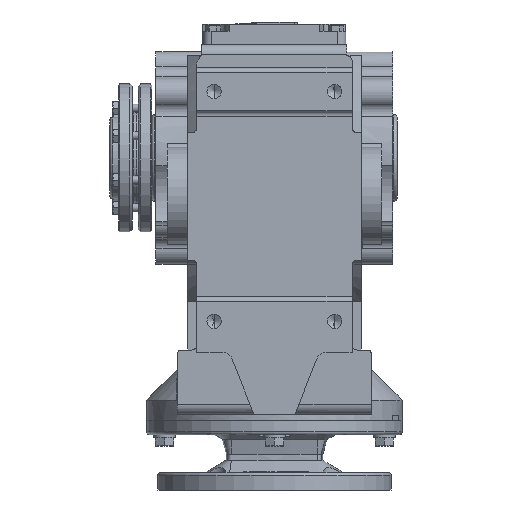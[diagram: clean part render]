
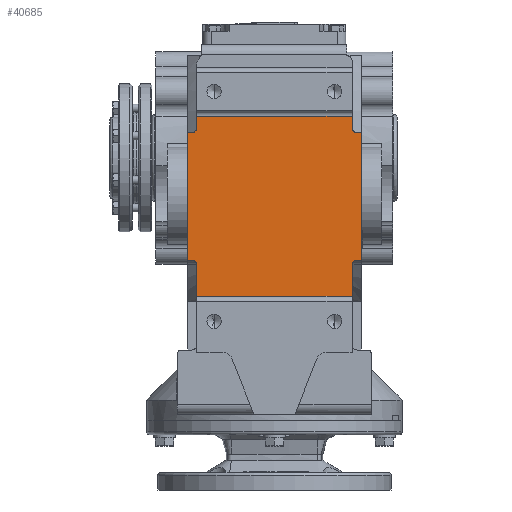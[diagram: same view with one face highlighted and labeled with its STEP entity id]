
A CAD part, front view. The second image highlights one B-rep face of the part: STEP entity #40685.
In plain terms, the highlighted planar face has unit normal (0, -1, 0).
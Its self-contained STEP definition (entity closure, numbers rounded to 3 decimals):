
#1103 = VERTEX_POINT ( 'NONE', #47355 ) ;
#1232 = VERTEX_POINT ( 'NONE', #47409 ) ;
#4917 = EDGE_CURVE ( 'NONE', #5127, #1232, #37619, .T. ) ;
#4921 = EDGE_CURVE ( 'NONE', #5411, #5133, #37627, .T. ) ;
#4922 = EDGE_CURVE ( 'NONE', #5411, #5130, #37629, .T. ) ;
#5127 = VERTEX_POINT ( 'NONE', #41481 ) ;
#5128 = VERTEX_POINT ( 'NONE', #41482 ) ;
#5129 = VERTEX_POINT ( 'NONE', #41483 ) ;
#5130 = VERTEX_POINT ( 'NONE', #41484 ) ;
#5133 = VERTEX_POINT ( 'NONE', #41487 ) ;
#5169 = VERTEX_POINT ( 'NONE', #41523 ) ;
#5172 = VERTEX_POINT ( 'NONE', #41526 ) ;
#5177 = VERTEX_POINT ( 'NONE', #41531 ) ;
#5180 = VERTEX_POINT ( 'NONE', #41534 ) ;
#5411 = VERTEX_POINT ( 'NONE', #41765 ) ;
#5496 = VERTEX_POINT ( 'NONE', #41850 ) ;
#5497 = VERTEX_POINT ( 'NONE', #41851 ) ;
#5568 = VERTEX_POINT ( 'NONE', #41922 ) ;
#5570 = VERTEX_POINT ( 'NONE', #41924 ) ;
#6868 = ORIENTED_EDGE ( 'NONE', *, *, #12306, .T. ) ;
#6870 = ORIENTED_EDGE ( 'NONE', *, *, #4917, .F. ) ;
#6872 = ORIENTED_EDGE ( 'NONE', *, *, #4922, .T. ) ;
#6874 = ORIENTED_EDGE ( 'NONE', *, *, #4921, .F. ) ;
#6876 = ORIENTED_EDGE ( 'NONE', *, *, #10694, .F. ) ;
#6878 = ORIENTED_EDGE ( 'NONE', *, *, #10252, .T. ) ;
#6880 = ORIENTED_EDGE ( 'NONE', *, *, #10241, .F. ) ;
#6882 = ORIENTED_EDGE ( 'NONE', *, *, #58040, .T. ) ;
#6884 = ORIENTED_EDGE ( 'NONE', *, *, #9985, .F. ) ;
#6886 = ORIENTED_EDGE ( 'NONE', *, *, #10565, .T. ) ;
#6888 = ORIENTED_EDGE ( 'NONE', *, *, #10239, .F. ) ;
#6890 = ORIENTED_EDGE ( 'NONE', *, *, #10793, .T. ) ;
#6892 = ORIENTED_EDGE ( 'NONE', *, *, #10722, .F. ) ;
#6894 = ORIENTED_EDGE ( 'NONE', *, *, #10398, .F. ) ;
#6896 = ORIENTED_EDGE ( 'NONE', *, *, #58035, .T. ) ;
#6898 = ORIENTED_EDGE ( 'NONE', *, *, #10308, .F. ) ;
#7891 = EDGE_LOOP ( 'NONE', ( #6870, #6868, #6874, #6872, #6876, #6888, #6894, #6878, #6880, #6890, #6892, #6882, #6886, #6884, #6898, #6896 ) ) ;
#9301 = CARTESIAN_POINT ( 'NONE',  ( 81., -206., 29.651 ) ) ;
#9302 = DIRECTION ( 'NONE',  ( 0., 1., 0. ) ) ;
#9303 = DIRECTION ( 'NONE',  ( 0., 0., -1. ) ) ;
#9320 = CARTESIAN_POINT ( 'NONE',  ( 81., -206., -105. ) ) ;
#9321 = DIRECTION ( 'NONE',  ( 0., 1., 0. ) ) ;
#9322 = DIRECTION ( 'NONE',  ( 0., 0., -1. ) ) ;
#9985 = EDGE_CURVE ( 'NONE', #5496, #5497, #38332, .T. ) ;
#10239 = EDGE_CURVE ( 'NONE', #5570, #5568, #24556, .T. ) ;
#10241 = EDGE_CURVE ( 'NONE', #5169, #5180, #24563, .T. ) ;
#10252 = EDGE_CURVE ( 'NONE', #5177, #5180, #24578, .T. ) ;
#10308 = EDGE_CURVE ( 'NONE', #5129, #5496, #24647, .T. ) ;
#10398 = EDGE_CURVE ( 'NONE', #5177, #5570, #24773, .T. ) ;
#10565 = EDGE_CURVE ( 'NONE', #5128, #5497, #24975, .T. ) ;
#10694 = EDGE_CURVE ( 'NONE', #5568, #5130, #25218, .T. ) ;
#10722 = EDGE_CURVE ( 'NONE', #1103, #5172, #25285, .T. ) ;
#10793 = EDGE_CURVE ( 'NONE', #5169, #5172, #25467, .T. ) ;
#12306 = EDGE_CURVE ( 'NONE', #5127, #5133, #59460, .T. ) ;
#17990 = CIRCLE ( 'NONE', #20165, 5. ) ;
#17996 = CIRCLE ( 'NONE', #20168, 5. ) ;
#18379 = AXIS2_PLACEMENT_3D ( 'NONE', #19350, #19351, #19352 ) ;
#18521 = AXIS2_PLACEMENT_3D ( 'NONE', #23891, #23892, #23893 ) ;
#19319 = CARTESIAN_POINT ( 'NONE',  ( 76., -206., 46. ) ) ;
#19327 = DIRECTION ( 'NONE',  ( 0., 0., -1. ) ) ;
#19334 = DIRECTION ( 'NONE',  ( 0., 0., 1. ) ) ;
#19337 = CARTESIAN_POINT ( 'NONE',  ( -76., -206., 46. ) ) ;
#19350 = CARTESIAN_POINT ( 'NONE',  ( -81., -206., 29.651 ) ) ;
#19351 = DIRECTION ( 'NONE',  ( 0., 1., 0. ) ) ;
#19352 = DIRECTION ( 'NONE',  ( 0., 0., -1. ) ) ;
#20165 = AXIS2_PLACEMENT_3D ( 'NONE', #9301, #9302, #9303 ) ;
#20168 = AXIS2_PLACEMENT_3D ( 'NONE', #9320, #9321, #9322 ) ;
#23816 = DIRECTION ( 'NONE',  ( 0., 0., 1. ) ) ;
#23832 = CARTESIAN_POINT ( 'NONE',  ( -85., -206., 7. ) ) ;
#23838 = CARTESIAN_POINT ( 'NONE',  ( -76., -206., -103. ) ) ;
#23839 = DIRECTION ( 'NONE',  ( 0., 0., 1. ) ) ;
#23891 = CARTESIAN_POINT ( 'NONE',  ( -81., -206., -105. ) ) ;
#23892 = DIRECTION ( 'NONE',  ( 0., 1., 0. ) ) ;
#23893 = DIRECTION ( 'NONE',  ( 0., 0., -1. ) ) ;
#24103 = DIRECTION ( 'NONE',  ( 1., 0., 0. ) ) ;
#24108 = CARTESIAN_POINT ( 'NONE',  ( 85., -206., 24.651 ) ) ;
#24556 = LINE ( 'NONE', #23832, #24562 ) ;
#24562 = VECTOR ( 'NONE', #23816, 1000. ) ;
#24563 = LINE ( 'NONE', #23838, #24566 ) ;
#24566 = VECTOR ( 'NONE', #23839, 1000. ) ;
#24578 = CIRCLE ( 'NONE', #18521, 5. ) ;
#24647 = LINE ( 'NONE', #24108, #24653 ) ;
#24653 = VECTOR ( 'NONE', #24103, 1000. ) ;
#24773 = LINE ( 'NONE', #49934, #24776 ) ;
#24776 = VECTOR ( 'NONE', #49937, 1000. ) ;
#24975 = LINE ( 'NONE', #37823, #24987 ) ;
#24987 = VECTOR ( 'NONE', #37884, 1000. ) ;
#25218 = LINE ( 'NONE', #38631, #25221 ) ;
#25221 = VECTOR ( 'NONE', #38633, 1000. ) ;
#25285 = LINE ( 'NONE', #38936, #25287 ) ;
#25287 = VECTOR ( 'NONE', #38940, 1000. ) ;
#25467 = LINE ( 'NONE', #39456, #25472 ) ;
#25472 = VECTOR ( 'NONE', #39458, 1000. ) ;
#27286 = CARTESIAN_POINT ( 'NONE',  ( -112., -206., 7. ) ) ;
#27289 = PLANE ( 'NONE',  #45484 ) ;
#27293 = DIRECTION ( 'NONE',  ( 0., -1., 0. ) ) ;
#27294 = DIRECTION ( 'NONE',  ( 0., 0., -1. ) ) ;
#33830 = DIRECTION ( 'NONE',  ( 0., 0., -1. ) ) ;
#33838 = CARTESIAN_POINT ( 'NONE',  ( 85., -206., 7. ) ) ;
#36156 = FACE_OUTER_BOUND ( 'NONE', #7891, .T. ) ;
#37619 = LINE ( 'NONE', #19319, #37624 ) ;
#37624 = VECTOR ( 'NONE', #19327, 1000. ) ;
#37627 = LINE ( 'NONE', #19337, #37631 ) ;
#37629 = CIRCLE ( 'NONE', #18379, 5. ) ;
#37631 = VECTOR ( 'NONE', #19334, 1000. ) ;
#37823 = CARTESIAN_POINT ( 'NONE',  ( 76., -206., -100. ) ) ;
#37884 = DIRECTION ( 'NONE',  ( 1., 0., 0. ) ) ;
#38332 = LINE ( 'NONE', #33838, #38338 ) ;
#38338 = VECTOR ( 'NONE', #33830, 1000. ) ;
#38631 = CARTESIAN_POINT ( 'NONE',  ( -76., -206., 24.651 ) ) ;
#38633 = DIRECTION ( 'NONE',  ( 1., 0., 0. ) ) ;
#38936 = CARTESIAN_POINT ( 'NONE',  ( 76., -206., -100. ) ) ;
#38940 = DIRECTION ( 'NONE',  ( 0., 0., -1. ) ) ;
#39456 = CARTESIAN_POINT ( 'NONE',  ( -112., -206., -135.346 ) ) ;
#39458 = DIRECTION ( 'NONE',  ( 1., 0., 0. ) ) ;
#40685 = ADVANCED_FACE ( 'NONE', ( #36156 ), #27289, .T. ) ;
#41481 = CARTESIAN_POINT ( 'NONE',  ( 76., -206., 41. ) ) ;
#41482 = CARTESIAN_POINT ( 'NONE',  ( 81., -206., -100. ) ) ;
#41483 = CARTESIAN_POINT ( 'NONE',  ( 81., -206., 24.651 ) ) ;
#41484 = CARTESIAN_POINT ( 'NONE',  ( -81., -206., 24.651 ) ) ;
#41487 = CARTESIAN_POINT ( 'NONE',  ( -76., -206., 41. ) ) ;
#41523 = CARTESIAN_POINT ( 'NONE',  ( -76., -206., -135.346 ) ) ;
#41526 = CARTESIAN_POINT ( 'NONE',  ( 76., -206., -135.346 ) ) ;
#41531 = CARTESIAN_POINT ( 'NONE',  ( -81., -206., -100. ) ) ;
#41534 = CARTESIAN_POINT ( 'NONE',  ( -76., -206., -105. ) ) ;
#41765 = CARTESIAN_POINT ( 'NONE',  ( -76., -206., 29.651 ) ) ;
#41850 = CARTESIAN_POINT ( 'NONE',  ( 85., -206., 24.651 ) ) ;
#41851 = CARTESIAN_POINT ( 'NONE',  ( 85., -206., -100. ) ) ;
#41922 = CARTESIAN_POINT ( 'NONE',  ( -85., -206., 24.651 ) ) ;
#41924 = CARTESIAN_POINT ( 'NONE',  ( -85., -206., -100. ) ) ;
#45484 = AXIS2_PLACEMENT_3D ( 'NONE', #27286, #27293, #27294 ) ;
#47355 = CARTESIAN_POINT ( 'NONE',  ( 76., -206., -105. ) ) ;
#47409 = CARTESIAN_POINT ( 'NONE',  ( 76., -206., 29.651 ) ) ;
#49934 = CARTESIAN_POINT ( 'NONE',  ( -76., -206., -100. ) ) ;
#49937 = DIRECTION ( 'NONE',  ( -1., 0., 0. ) ) ;
#56622 = DIRECTION ( 'NONE',  ( -1., 0., 0. ) ) ;
#56623 = CARTESIAN_POINT ( 'NONE',  ( -112., -206., 41. ) ) ;
#58035 = EDGE_CURVE ( 'NONE', #5129, #1232, #17990, .T. ) ;
#58040 = EDGE_CURVE ( 'NONE', #1103, #5128, #17996, .T. ) ;
#59460 = LINE ( 'NONE', #56623, #59463 ) ;
#59463 = VECTOR ( 'NONE', #56622, 1000. ) ;
